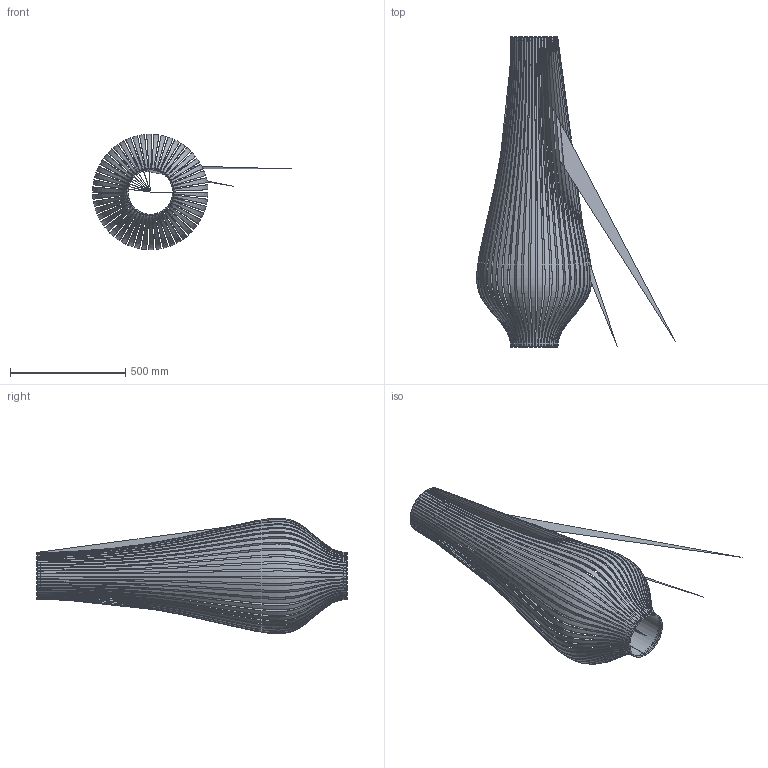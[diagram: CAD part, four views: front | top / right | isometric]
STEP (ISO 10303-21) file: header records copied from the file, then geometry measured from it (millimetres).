
FILE_DESCRIPTION (( 'STEP AP214' ), '1' );
FILE_NAME ('MIRTA-H3054080.STEP', '2026-01-14T12:12:51', ( '' ), ( '' ), 'SwSTEP 2.0', 'SolidWorks 2025', '' );
FILE_SCHEMA (( 'AUTOMOTIVE_DESIGN' ));
Length unit declared in the file: millimetre
Products named in the file (1): MIRTA-H3054080
Bounding box: 861.33 x 1345.01 x 499.84 mm (x, y, z)
Volume: 1811537.4 mm3; surface area: 3809005.3 mm2
Topology: 51 solids, 52 shells, 320 faces, 640 edges, 420 vertices
Faces by surface type: plane 200, bspline 100, torus 16, cylinder 4
Entity records: 21499 total; most frequent: CARTESIAN_POINT 14881, ORIENTED_EDGE 1280, DIRECTION 1118, EDGE_CURVE 640, AXIS2_PLACEMENT_3D 457, VERTEX_POINT 420, EDGE_LOOP 320, FACE_OUTER_BOUND 320
